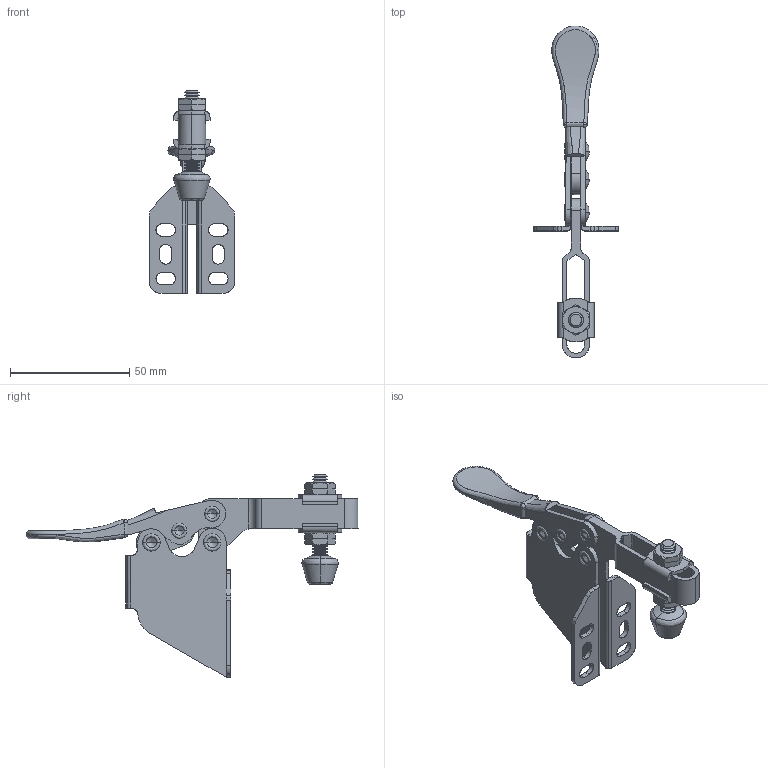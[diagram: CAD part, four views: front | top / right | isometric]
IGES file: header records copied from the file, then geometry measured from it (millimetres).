
Start section: 3D InterOp IGES (Version 17 0 1), Spatial Corp. Copyright (c) 1999-2007.
Bounding box: 36 x 139.21 x 84.87 mm (x, y, z)
Surface area: 26070 mm2 (no closed solid volume)
Topology: 0 solids, 0 shells, 532 faces, 4552 edges, 4522 vertices
Faces by surface type: bspline 532
